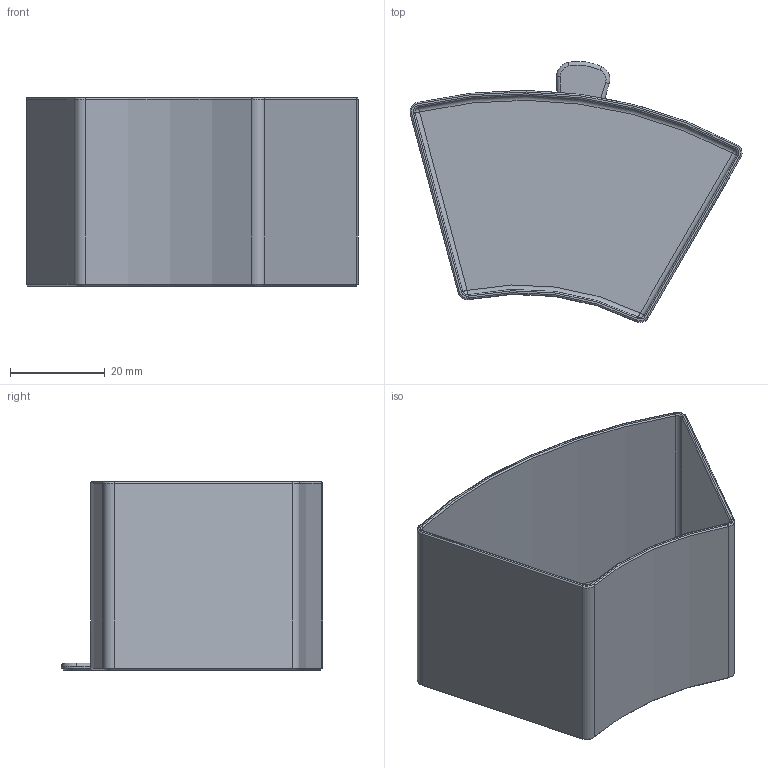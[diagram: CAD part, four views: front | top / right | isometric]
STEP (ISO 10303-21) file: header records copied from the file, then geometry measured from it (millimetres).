
FILE_DESCRIPTION(('FreeCAD Model'),'2;1');
FILE_NAME( 'D:/GitRepo/CAD-Design/FreeCAD/Spool_Organizer/Box_45.V03.step', '2017-11-26T14:58:14',('Author'),(''), 'Open CASCADE STEP processor 7.1','FreeCAD','Unknown');
FILE_SCHEMA(('AUTOMOTIVE_DESIGN { 1 0 10303 214 1 1 1 1 }'));
Length unit declared in the file: millimetre
Products named in the file (1): Box_C.07.Fusion
Bounding box: 70.18 x 55.19 x 39.8 mm (x, y, z)
Volume: 10061 mm3; surface area: 20054.3 mm2
Topology: 1 solids, 1 shells, 70 faces, 157 edges, 86 vertices
Faces by surface type: cylinder 23, torus 17, plane 16, cone 10, sphere 4
Entity records: 5048 total; most frequent: CARTESIAN_POINT 1980, DIRECTION 584, ORIENTED_EDGE 306, PCURVE 306, DEFINITIONAL_REPRESENTATION 306, LINE 242, VECTOR 242, AXIS2_PLACEMENT_3D 162
